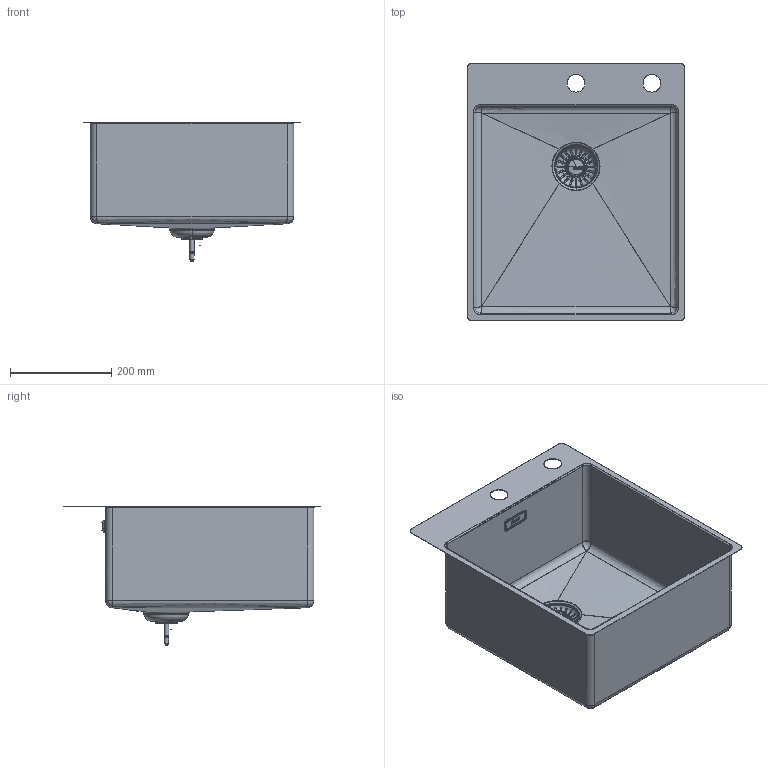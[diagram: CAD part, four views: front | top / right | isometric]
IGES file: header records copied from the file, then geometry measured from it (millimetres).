
Global section: file name: F:\_CONVERSIONE_CAD_2024_2025\03_3D kits new\09_Sinks\3D001_Sinks_Franke-Box_BXX-210-40-TL\3D001_Sinks_Franke-Box_BXX-210-40-TL.igs; native system: Rhinoceros ( Jan  9 2024 ); preprocessor: Trout Lake IGES 012 Jan  9 2024; date: 240201.103933; units: millimetre
Bounding box: 430 x 510 x 276.23 mm (x, y, z)
Surface area: 1086743.7 mm2 (no closed solid volume)
Topology: 0 solids, 0 shells, 1331 faces, 8384 edges, 8329 vertices
Faces by surface type: bspline 1331
